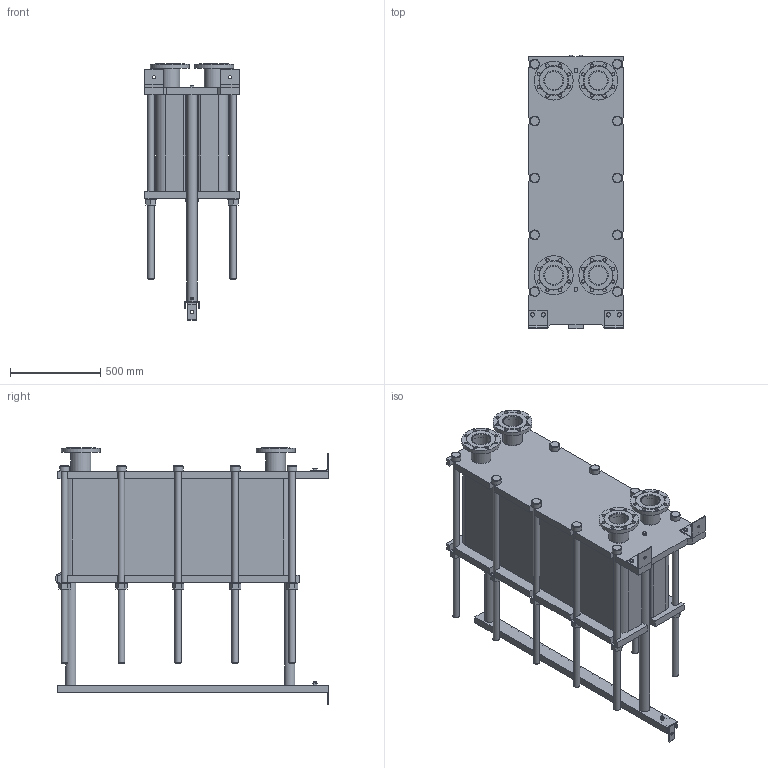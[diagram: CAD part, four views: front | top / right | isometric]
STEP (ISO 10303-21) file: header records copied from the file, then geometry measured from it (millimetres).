
FILE_DESCRIPTION(/* description */ (''),/* implementation_level */ '2;1');
FILE_NAME(/* name */ 'C:\Users\zhuro\Desktop\ENCO\TO\ЭН-04\ЭН-0,5-04-155-1.stp',/* time_stamp */ '2022-06-06T10:59:11+03:00',/* author */ ('zhuro'),/* organization */ (''),/* preprocessor_version */ 'ST-DEVELOPER v18.1',/* originating_system */ 'Autodesk Inventor 2022',/* authorisation */ '');
FILE_SCHEMA (('AUTOMOTIVE_DESIGN { 1 0 10303 214 3 1 1 }'));
Length unit declared in the file: millimetre
Products named in the file (1): ЭН-0,5-04-155-1
Bounding box: 520 x 1510 x 1417.5 mm (x, y, z)
Volume: 341411143.9 mm3; surface area: 9564717.1 mm2
Topology: 45 solids, 45 shells, 668 faces, 1611 edges, 1048 vertices
Faces by surface type: plane 457, cylinder 166, cone 39, torus 6
Full cylindrical faces by diameter (mm): 8 x4, 10 x2, 16 x8, 18 x35, 36 x25, 40 x2, 42 x1, 45 x4, 54 x10, 57 x2, 60 x10, 68 x2, 100 x4, 110 x8, 215 x4
Entity records: 23607 total; most frequent: CARTESIAN_POINT 7348, DIRECTION 3371, ORIENTED_EDGE 3142, EDGE_CURVE 1571, AXIS2_PLACEMENT_3D 1199, VERTEX_POINT 1044, LINE 973, VECTOR 973
